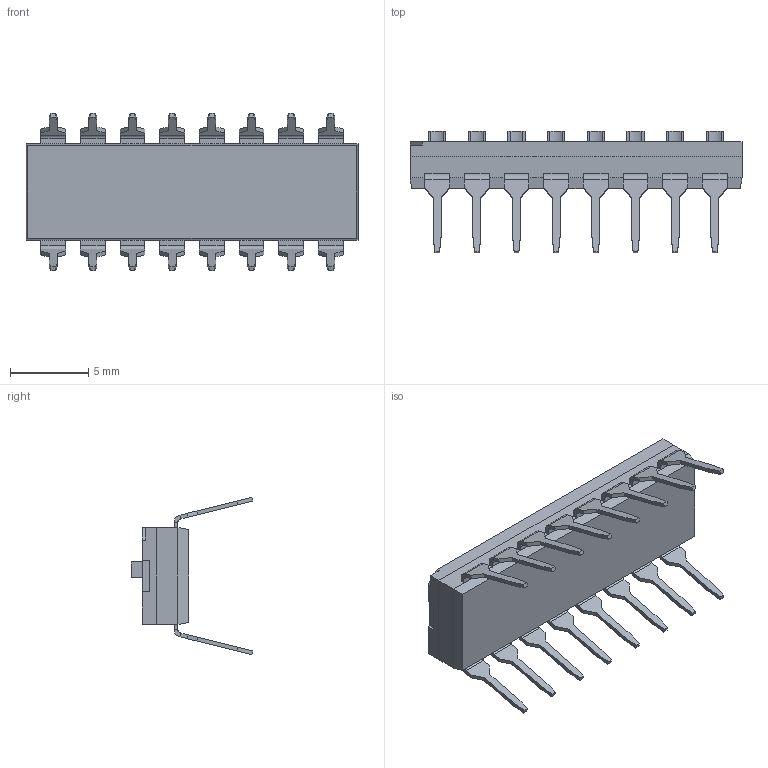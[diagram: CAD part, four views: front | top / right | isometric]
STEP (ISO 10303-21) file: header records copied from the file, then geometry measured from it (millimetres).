
FILE_DESCRIPTION (( 'STEP AP214' ), '1' );
FILE_NAME ('NDI-08S-V(ND) AM.STEP', '2020-04-16T02:02:18', ( '' ), ( '' ), 'SwSTEP 2.0', 'SolidWorks 2017', '' );
FILE_SCHEMA (( 'AUTOMOTIVE_DESIGN' ));
Length unit declared in the file: millimetre
Products named in the file (1): NDI-08S-V(ND) AM
Bounding box: 21.26 x 7.8 x 10.08 mm (x, y, z)
Volume: 418 mm3; surface area: 1147.5 mm2
Topology: 18 solids, 18 shells, 578 faces, 1449 edges, 922 vertices
Faces by surface type: plane 456, bspline 74, cylinder 48
Entity records: 26938 total; most frequent: CARTESIAN_POINT 7016, ORIENTED_EDGE 2898, DIRECTION 2407, EDGE_CURVE 1449, LINE 1205, VECTOR 1205, VERTEX_POINT 922, EDGE_LOOP 609
